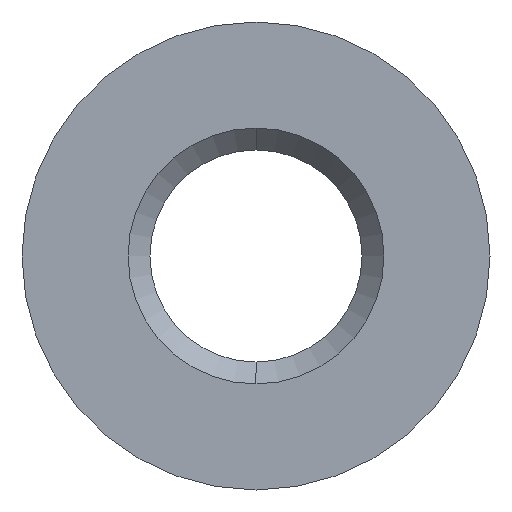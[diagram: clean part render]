
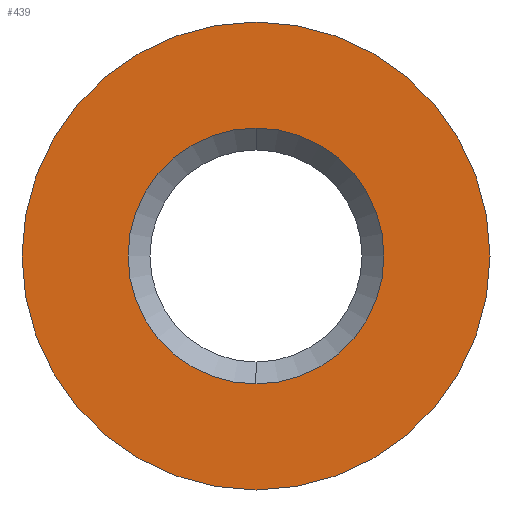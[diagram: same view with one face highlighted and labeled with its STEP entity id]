
A CAD part, left-side view. The second image highlights one B-rep face of the part: STEP entity #439.
In plain terms, the highlighted planar face has unit normal (-1, 0, 0).
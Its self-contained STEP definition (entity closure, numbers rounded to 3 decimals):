
#29 = PLANE ( 'NONE',  #278 ) ;
#37 = CIRCLE ( 'NONE', #215, 3.2 ) ;
#65 = EDGE_CURVE ( 'NONE', #694, #174, #37, .T. ) ;
#78 = DIRECTION ( 'NONE',  ( 0., 0., 1. ) ) ;
#114 = AXIS2_PLACEMENT_3D ( 'NONE', #662, #725, #790 ) ;
#123 = EDGE_LOOP ( 'NONE', ( #460, #587 ) ) ;
#127 = DIRECTION ( 'NONE',  ( 0., 0., 1. ) ) ;
#154 = CIRCLE ( 'NONE', #114, 1.75 ) ;
#157 = EDGE_CURVE ( 'NONE', #608, #455, #154, .T. ) ;
#167 = CARTESIAN_POINT ( 'NONE',  ( -4.29, 0., 1.75 ) ) ;
#174 = VERTEX_POINT ( 'NONE', #658 ) ;
#214 = EDGE_LOOP ( 'NONE', ( #754, #656 ) ) ;
#215 = AXIS2_PLACEMENT_3D ( 'NONE', #409, #654, #795 ) ;
#221 = AXIS2_PLACEMENT_3D ( 'NONE', #322, #755, #127 ) ;
#270 = CARTESIAN_POINT ( 'NONE',  ( -4.29, 0., 0. ) ) ;
#278 = AXIS2_PLACEMENT_3D ( 'NONE', #270, #437, #78 ) ;
#304 = EDGE_CURVE ( 'NONE', #174, #694, #386, .T. ) ;
#314 = CARTESIAN_POINT ( 'NONE',  ( -4.29, 0., 0. ) ) ;
#320 = EDGE_CURVE ( 'NONE', #455, #608, #321, .T. ) ;
#321 = CIRCLE ( 'NONE', #488, 1.75 ) ;
#322 = CARTESIAN_POINT ( 'NONE',  ( -4.29, 0., 0. ) ) ;
#386 = CIRCLE ( 'NONE', #221, 3.2 ) ;
#409 = CARTESIAN_POINT ( 'NONE',  ( -4.29, 0., 0. ) ) ;
#426 = CARTESIAN_POINT ( 'NONE',  ( -4.29, 0., -3.2 ) ) ;
#437 = DIRECTION ( 'NONE',  ( -1., 0., 0. ) ) ;
#439 = ADVANCED_FACE ( 'NONE', ( #501, #443 ), #29, .T. ) ;
#443 = FACE_OUTER_BOUND ( 'NONE', #123, .T. ) ;
#455 = VERTEX_POINT ( 'NONE', #761 ) ;
#460 = ORIENTED_EDGE ( 'NONE', *, *, #65, .T. ) ;
#488 = AXIS2_PLACEMENT_3D ( 'NONE', #314, #628, #565 ) ;
#501 = FACE_BOUND ( 'NONE', #214, .T. ) ;
#565 = DIRECTION ( 'NONE',  ( 0., 0., 1. ) ) ;
#587 = ORIENTED_EDGE ( 'NONE', *, *, #304, .T. ) ;
#608 = VERTEX_POINT ( 'NONE', #167 ) ;
#628 = DIRECTION ( 'NONE',  ( 1., 0., 0. ) ) ;
#654 = DIRECTION ( 'NONE',  ( -1., 0., 0. ) ) ;
#656 = ORIENTED_EDGE ( 'NONE', *, *, #320, .T. ) ;
#658 = CARTESIAN_POINT ( 'NONE',  ( -4.29, 0., 3.2 ) ) ;
#662 = CARTESIAN_POINT ( 'NONE',  ( -4.29, 0., 0. ) ) ;
#694 = VERTEX_POINT ( 'NONE', #426 ) ;
#725 = DIRECTION ( 'NONE',  ( 1., 0., 0. ) ) ;
#754 = ORIENTED_EDGE ( 'NONE', *, *, #157, .T. ) ;
#755 = DIRECTION ( 'NONE',  ( -1., 0., 0. ) ) ;
#761 = CARTESIAN_POINT ( 'NONE',  ( -4.29, 0., -1.75 ) ) ;
#790 = DIRECTION ( 'NONE',  ( 0., 0., 1. ) ) ;
#795 = DIRECTION ( 'NONE',  ( 0., 0., 1. ) ) ;
